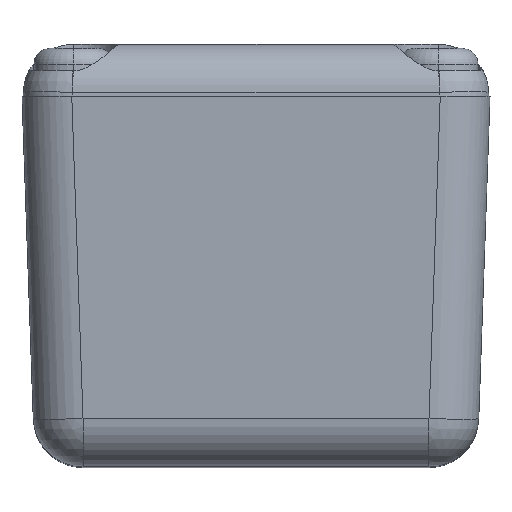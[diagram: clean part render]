
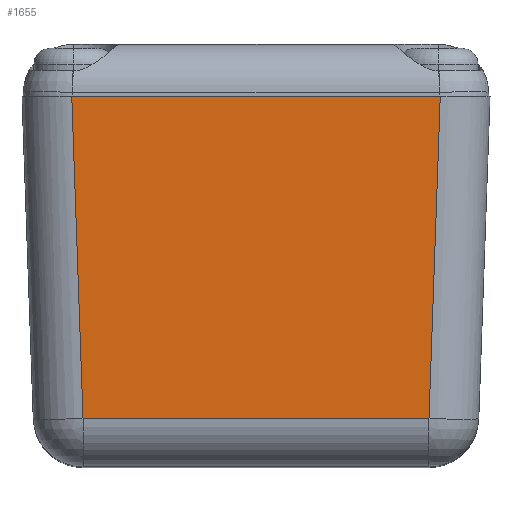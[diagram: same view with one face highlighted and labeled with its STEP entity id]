
A CAD part, top view. The second image highlights one B-rep face of the part: STEP entity #1655.
In plain terms, the highlighted planar face has unit normal (0, -0.035, 0.999).
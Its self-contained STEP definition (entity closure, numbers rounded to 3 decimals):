
#1069 = LINE ( 'NONE', #25604, #24256 ) ;
#1655 = ADVANCED_FACE ( 'NONE', ( #29698 ), #24296, .T. ) ;
#1742 = EDGE_LOOP ( 'NONE', ( #28849, #37145, #10505, #38103 ) ) ;
#2698 = CARTESIAN_POINT ( 'NONE',  ( 11.1, -16.187, 16.185 ) ) ;
#4313 = LINE ( 'NONE', #32426, #34907 ) ;
#5393 = DIRECTION ( 'NONE',  ( 0., -0.035, 0.999 ) ) ;
#6571 = EDGE_CURVE ( 'NONE', #40608, #12498, #4313, .T. ) ;
#10505 = ORIENTED_EDGE ( 'NONE', *, *, #38945, .F. ) ;
#11416 = EDGE_CURVE ( 'NONE', #14873, #31764, #36696, .T. ) ;
#11765 = CARTESIAN_POINT ( 'NONE',  ( -11.75, 0., 16.75 ) ) ;
#12498 = VERTEX_POINT ( 'NONE', #25228 ) ;
#13690 = DIRECTION ( 'NONE',  ( 0.035, 0.999, 0.035 ) ) ;
#14873 = VERTEX_POINT ( 'NONE', #26225 ) ;
#16650 = CARTESIAN_POINT ( 'NONE',  ( -9.255, 0.087, 16.753 ) ) ;
#17758 = CARTESIAN_POINT ( 'NONE',  ( -8.686, -16.187, 16.185 ) ) ;
#21977 = AXIS2_PLACEMENT_3D ( 'NONE', #11765, #5393, #27500 ) ;
#24256 = VECTOR ( 'NONE', #28779, 1000. ) ;
#24296 = PLANE ( 'NONE',  #21977 ) ;
#25228 = CARTESIAN_POINT ( 'NONE',  ( 9.252, 0., 16.75 ) ) ;
#25604 = CARTESIAN_POINT ( 'NONE',  ( -11.75, 0., 16.75 ) ) ;
#26225 = CARTESIAN_POINT ( 'NONE',  ( -9.252, 0., 16.75 ) ) ;
#27500 = DIRECTION ( 'NONE',  ( 0., -0.999, -0.035 ) ) ;
#28779 = DIRECTION ( 'NONE',  ( 1., 0., 0. ) ) ;
#28849 = ORIENTED_EDGE ( 'NONE', *, *, #37602, .T. ) ;
#29698 = FACE_OUTER_BOUND ( 'NONE', #1742, .T. ) ;
#31764 = VERTEX_POINT ( 'NONE', #17758 ) ;
#32426 = CARTESIAN_POINT ( 'NONE',  ( 9.226, -0.732, 16.724 ) ) ;
#32500 = DIRECTION ( 'NONE',  ( 0.035, -0.999, -0.035 ) ) ;
#33234 = VECTOR ( 'NONE', #37710, 1000. ) ;
#34907 = VECTOR ( 'NONE', #13690, 1000. ) ;
#36162 = LINE ( 'NONE', #2698, #33234 ) ;
#36163 = CARTESIAN_POINT ( 'NONE',  ( 8.686, -16.187, 16.185 ) ) ;
#36696 = LINE ( 'NONE', #16650, #40651 ) ;
#37145 = ORIENTED_EDGE ( 'NONE', *, *, #6571, .T. ) ;
#37602 = EDGE_CURVE ( 'NONE', #31764, #40608, #36162, .T. ) ;
#37710 = DIRECTION ( 'NONE',  ( 1., 0., 0. ) ) ;
#38103 = ORIENTED_EDGE ( 'NONE', *, *, #11416, .T. ) ;
#38945 = EDGE_CURVE ( 'NONE', #14873, #12498, #1069, .T. ) ;
#40608 = VERTEX_POINT ( 'NONE', #36163 ) ;
#40651 = VECTOR ( 'NONE', #32500, 1000. ) ;
